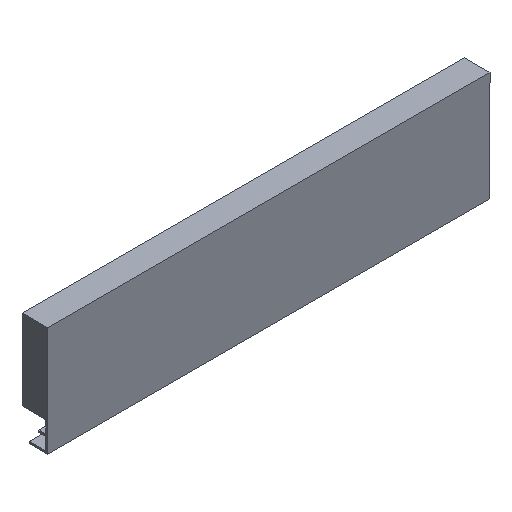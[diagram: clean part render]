
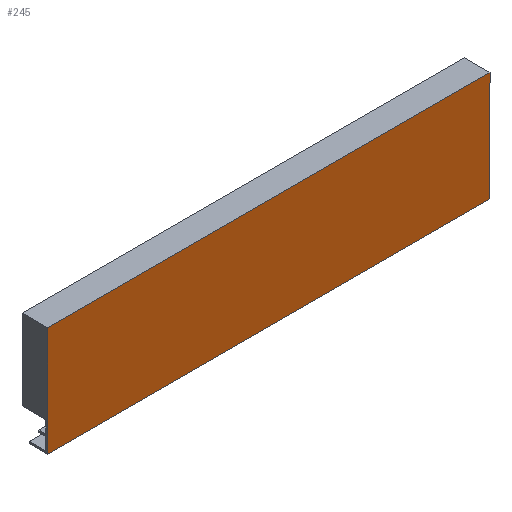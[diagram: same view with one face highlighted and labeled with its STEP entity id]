
A CAD part, isometric view. The second image highlights one B-rep face of the part: STEP entity #245.
In plain terms, the highlighted planar face has unit normal (0, -1, 0).
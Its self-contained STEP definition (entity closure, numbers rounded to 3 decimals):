
#1 = CARTESIAN_POINT ( 'NONE',  ( 136.5, -5.5, 49.7 ) ) ;
#5 = CARTESIAN_POINT ( 'NONE',  ( -136.5, -5.5, 49.7 ) ) ;
#7 = VERTEX_POINT ( 'NONE', #1 ) ;
#8 = VERTEX_POINT ( 'NONE', #34 ) ;
#9 = VERTEX_POINT ( 'NONE', #5 ) ;
#26 = VERTEX_POINT ( 'NONE', #50 ) ;
#34 = CARTESIAN_POINT ( 'NONE',  ( 136.5, -5.5, -17.9 ) ) ;
#50 = CARTESIAN_POINT ( 'NONE',  ( -136.5, -5.5, -17.9 ) ) ;
#89 = PLANE ( 'NONE',  #326 ) ;
#92 = CARTESIAN_POINT ( 'NONE',  ( -136.5, -5.5, -17.9 ) ) ;
#98 = DIRECTION ( 'NONE',  ( 0., 1., 0. ) ) ;
#99 = DIRECTION ( 'NONE',  ( 0., 0., -1. ) ) ;
#121 = CARTESIAN_POINT ( 'NONE',  ( -136.5, -5.5, -17.9 ) ) ;
#136 = DIRECTION ( 'NONE',  ( 0., 0., 1. ) ) ;
#155 = CARTESIAN_POINT ( 'NONE',  ( -136.5, -5.5, 49.7 ) ) ;
#156 = DIRECTION ( 'NONE',  ( 1., 0., 0. ) ) ;
#170 = CARTESIAN_POINT ( 'NONE',  ( -136.5, -5.5, -17.9 ) ) ;
#171 = DIRECTION ( 'NONE',  ( 1., 0., 0. ) ) ;
#197 = CARTESIAN_POINT ( 'NONE',  ( 136.5, -5.5, -17.9 ) ) ;
#198 = DIRECTION ( 'NONE',  ( 0., 0., 1. ) ) ;
#245 = ADVANCED_FACE ( 'NONE', ( #345 ), #89, .F. ) ;
#264 = EDGE_CURVE ( 'NONE', #26, #9, #477, .T. ) ;
#274 = EDGE_CURVE ( 'NONE', #9, #7, #484, .T. ) ;
#281 = EDGE_CURVE ( 'NONE', #26, #8, #497, .T. ) ;
#312 = EDGE_CURVE ( 'NONE', #8, #7, #520, .T. ) ;
#326 = AXIS2_PLACEMENT_3D ( 'NONE', #92, #98, #99 ) ;
#345 = FACE_OUTER_BOUND ( 'NONE', #392, .T. ) ;
#371 = ORIENTED_EDGE ( 'NONE', *, *, #312, .T. ) ;
#376 = ORIENTED_EDGE ( 'NONE', *, *, #274, .F. ) ;
#377 = ORIENTED_EDGE ( 'NONE', *, *, #264, .F. ) ;
#392 = EDGE_LOOP ( 'NONE', ( #371, #376, #377, #402 ) ) ;
#402 = ORIENTED_EDGE ( 'NONE', *, *, #281, .T. ) ;
#473 = VECTOR ( 'NONE', #136, 1000. ) ;
#477 = LINE ( 'NONE', #121, #473 ) ;
#484 = LINE ( 'NONE', #155, #485 ) ;
#485 = VECTOR ( 'NONE', #156, 1000. ) ;
#497 = LINE ( 'NONE', #170, #498 ) ;
#498 = VECTOR ( 'NONE', #171, 1000. ) ;
#520 = LINE ( 'NONE', #197, #521 ) ;
#521 = VECTOR ( 'NONE', #198, 1000. ) ;
